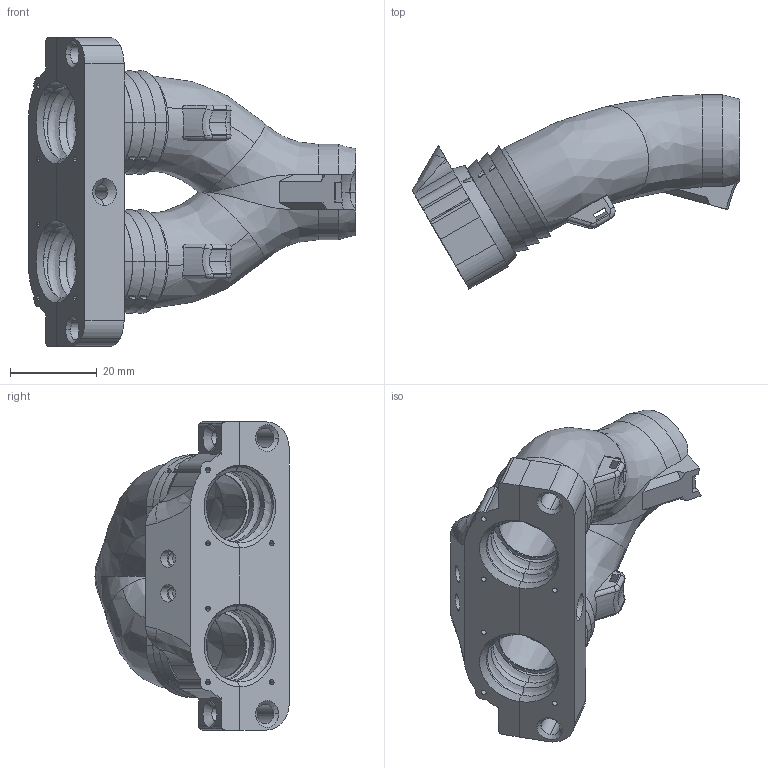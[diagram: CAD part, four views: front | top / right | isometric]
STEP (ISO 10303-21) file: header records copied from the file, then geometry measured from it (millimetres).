
FILE_DESCRIPTION (( 'STEP AP214' ), '1' );
FILE_NAME ('V9-623 - ws7040 splitter.step_1.STEP', '2026-03-03T15:33:48', ( '' ), ( '' ), 'SwSTEP 2.0', 'SolidWorks 2025', '' );
FILE_SCHEMA (( 'AUTOMOTIVE_DESIGN' ));
Length unit declared in the file: millimetre
Products named in the file (1): V9-623 - ws7040 splitter.step_1
Bounding box: 75.51 x 44.75 x 71 mm (x, y, z)
Volume: 28556.9 mm3; surface area: 22358.2 mm2
Topology: 2 solids, 2 shells, 460 faces, 1276 edges, 828 vertices
Faces by surface type: cylinder 183, plane 128, bspline 97, cone 46, torus 6
Entity records: 31551 total; most frequent: CARTESIAN_POINT 20337, ORIENTED_EDGE 2546, DIRECTION 2091, EDGE_CURVE 1273, VERTEX_POINT 828, AXIS2_PLACEMENT_3D 816, EDGE_LOOP 511, ADVANCED_FACE 460
